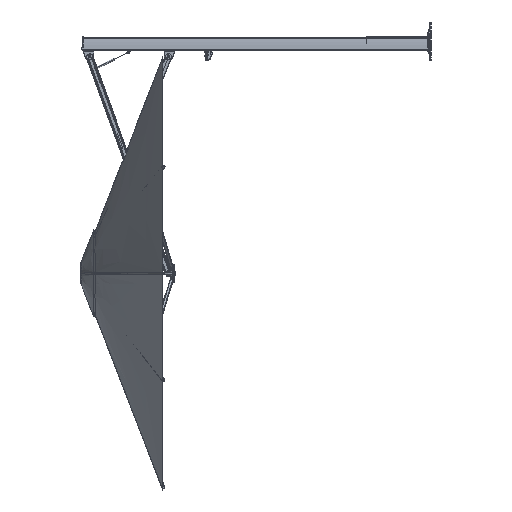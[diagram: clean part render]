
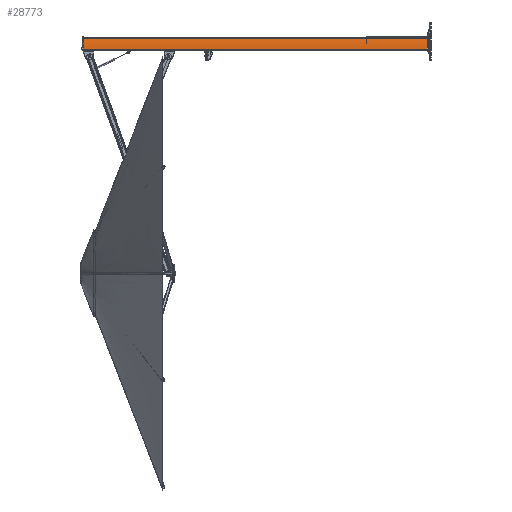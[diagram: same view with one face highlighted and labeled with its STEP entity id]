
A CAD part, left-side view. The second image highlights one B-rep face of the part: STEP entity #28773.
In plain terms, the highlighted cylindrical face has radius 528.498 mm (diameter 1057 mm), a partial arc.
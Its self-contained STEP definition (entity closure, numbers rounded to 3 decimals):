
#655 = ORIENTED_EDGE ( 'NONE', *, *, #11231, .F. ) ;
#734 = CARTESIAN_POINT ( 'NONE',  ( -33.771, 1480., 45.515 ) ) ;
#1097 = LINE ( 'NONE', #22731, #50077 ) ;
#9060 = CIRCLE ( 'NONE', #36765, 528.498 ) ;
#10893 = EDGE_CURVE ( 'NONE', #23317, #15934, #16274, .T. ) ;
#11203 = CARTESIAN_POINT ( 'NONE',  ( -42.958, 1480., -46.19 ) ) ;
#11231 = EDGE_CURVE ( 'NONE', #17275, #15934, #39269, .T. ) ;
#11844 = ORIENTED_EDGE ( 'NONE', *, *, #17046, .T. ) ;
#12821 = CARTESIAN_POINT ( 'NONE',  ( -33.771, 1400., 45.515 ) ) ;
#13967 = AXIS2_PLACEMENT_3D ( 'NONE', #37324, #14116, #37529 ) ;
#14116 = DIRECTION ( 'NONE',  ( 0., -1., 0. ) ) ;
#15455 = CYLINDRICAL_SURFACE ( 'NONE', #13967, 528.498 ) ;
#15934 = VERTEX_POINT ( 'NONE', #20739 ) ;
#16274 = CIRCLE ( 'NONE', #30185, 528.498 ) ;
#17046 = EDGE_CURVE ( 'NONE', #22211, #23317, #1097, .T. ) ;
#17275 = VERTEX_POINT ( 'NONE', #734 ) ;
#17674 = DIRECTION ( 'NONE',  ( 0., 1., 0. ) ) ;
#20739 = CARTESIAN_POINT ( 'NONE',  ( -33.771, -1400., 45.515 ) ) ;
#22211 = VERTEX_POINT ( 'NONE', #11203 ) ;
#22731 = CARTESIAN_POINT ( 'NONE',  ( -42.958, 1400., -46.19 ) ) ;
#23317 = VERTEX_POINT ( 'NONE', #48570 ) ;
#26626 = VECTOR ( 'NONE', #55772, 1000. ) ;
#27171 = DIRECTION ( 'NONE',  ( 0., 0., -1. ) ) ;
#27809 = EDGE_LOOP ( 'NONE', ( #43361, #655, #43168, #11844 ) ) ;
#28773 = ADVANCED_FACE ( 'NONE', ( #53297 ), #15455, .T. ) ;
#30185 = AXIS2_PLACEMENT_3D ( 'NONE', #34628, #48747, #34022 ) ;
#34022 = DIRECTION ( 'NONE',  ( 0., 0., 1. ) ) ;
#34628 = CARTESIAN_POINT ( 'NONE',  ( 485.498, -1400., -52.823 ) ) ;
#36765 = AXIS2_PLACEMENT_3D ( 'NONE', #41087, #17674, #27171 ) ;
#37324 = CARTESIAN_POINT ( 'NONE',  ( 485.498, 1400., -52.823 ) ) ;
#37529 = DIRECTION ( 'NONE',  ( 0., 0., -1. ) ) ;
#39269 = LINE ( 'NONE', #12821, #26626 ) ;
#40296 = EDGE_CURVE ( 'NONE', #22211, #17275, #9060, .T. ) ;
#41087 = CARTESIAN_POINT ( 'NONE',  ( 485.498, 1480., -52.823 ) ) ;
#42219 = DIRECTION ( 'NONE',  ( 0., -1., 0. ) ) ;
#43168 = ORIENTED_EDGE ( 'NONE', *, *, #40296, .F. ) ;
#43361 = ORIENTED_EDGE ( 'NONE', *, *, #10893, .T. ) ;
#48570 = CARTESIAN_POINT ( 'NONE',  ( -42.958, -1400., -46.19 ) ) ;
#48747 = DIRECTION ( 'NONE',  ( 0., 1., 0. ) ) ;
#50077 = VECTOR ( 'NONE', #42219, 1000. ) ;
#53297 = FACE_OUTER_BOUND ( 'NONE', #27809, .T. ) ;
#55772 = DIRECTION ( 'NONE',  ( 0., -1., 0. ) ) ;
